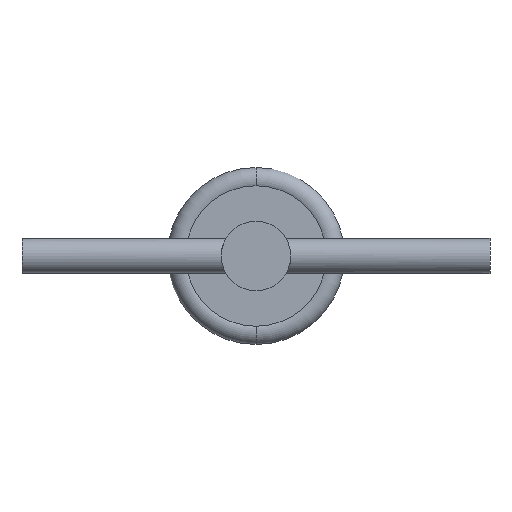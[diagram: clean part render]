
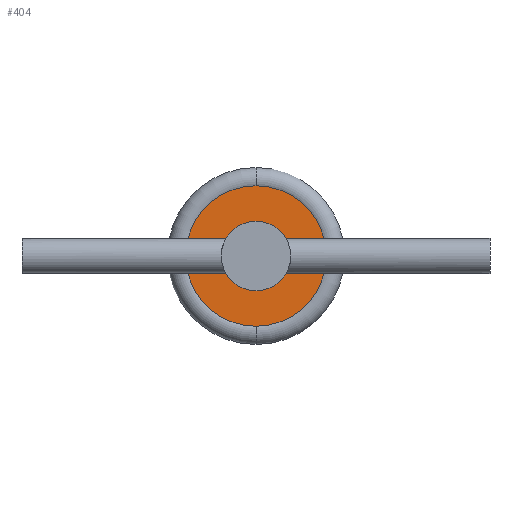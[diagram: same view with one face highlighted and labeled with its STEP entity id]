
A CAD part, left-side view. The second image highlights one B-rep face of the part: STEP entity #404.
In plain terms, the highlighted planar face has unit normal (-1, 0, 0).
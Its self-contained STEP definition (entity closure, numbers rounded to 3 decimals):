
#6 = EDGE_CURVE ( 'NONE', #486, #595, #74, .T. ) ;
#57 = EDGE_CURVE ( 'NONE', #303, #295, #770, .T. ) ;
#69 = DIRECTION ( 'NONE',  ( 0., 0., 1. ) ) ;
#74 = CIRCLE ( 'NONE', #328, 2.968 ) ;
#110 = CARTESIAN_POINT ( 'NONE',  ( 5.799, 0., 0. ) ) ;
#114 = ORIENTED_EDGE ( 'NONE', *, *, #602, .F. ) ;
#118 = DIRECTION ( 'NONE',  ( -1., 0., 0. ) ) ;
#124 = DIRECTION ( 'NONE',  ( 0., 0., 1. ) ) ;
#130 = ORIENTED_EDGE ( 'NONE', *, *, #6, .F. ) ;
#131 = ORIENTED_EDGE ( 'NONE', *, *, #57, .T. ) ;
#133 = AXIS2_PLACEMENT_3D ( 'NONE', #110, #118, #124 ) ;
#142 = DIRECTION ( 'NONE',  ( 0., 0., 1. ) ) ;
#146 = ORIENTED_EDGE ( 'NONE', *, *, #341, .T. ) ;
#156 = AXIS2_PLACEMENT_3D ( 'NONE', #175, #179, #182 ) ;
#175 = CARTESIAN_POINT ( 'NONE',  ( 5.799, 0., 0. ) ) ;
#179 = DIRECTION ( 'NONE',  ( -1., 0., 0. ) ) ;
#182 = DIRECTION ( 'NONE',  ( 0., 0., 1. ) ) ;
#192 = CARTESIAN_POINT ( 'NONE',  ( 5.799, 0., -6. ) ) ;
#225 = PLANE ( 'NONE',  #431 ) ;
#260 = CARTESIAN_POINT ( 'NONE',  ( 5.799, 2.968, 0. ) ) ;
#295 = VERTEX_POINT ( 'NONE', #707 ) ;
#303 = VERTEX_POINT ( 'NONE', #192 ) ;
#328 = AXIS2_PLACEMENT_3D ( 'NONE', #580, #597, #69 ) ;
#341 = EDGE_CURVE ( 'NONE', #295, #303, #554, .T. ) ;
#369 = AXIS2_PLACEMENT_3D ( 'NONE', #545, #473, #142 ) ;
#382 = FACE_OUTER_BOUND ( 'NONE', #815, .T. ) ;
#404 = ADVANCED_FACE ( 'NONE', ( #806, #382 ), #225, .F. ) ;
#427 = CARTESIAN_POINT ( 'NONE',  ( 5.799, 0., 2.968 ) ) ;
#431 = AXIS2_PLACEMENT_3D ( 'NONE', #260, #632, #613 ) ;
#435 = CIRCLE ( 'NONE', #156, 2.968 ) ;
#473 = DIRECTION ( 'NONE',  ( -1., 0., 0. ) ) ;
#486 = VERTEX_POINT ( 'NONE', #793 ) ;
#545 = CARTESIAN_POINT ( 'NONE',  ( 5.799, 0., 0. ) ) ;
#554 = CIRCLE ( 'NONE', #133, 6. ) ;
#580 = CARTESIAN_POINT ( 'NONE',  ( 5.799, 0., 0. ) ) ;
#595 = VERTEX_POINT ( 'NONE', #427 ) ;
#597 = DIRECTION ( 'NONE',  ( -1., 0., 0. ) ) ;
#602 = EDGE_CURVE ( 'NONE', #595, #486, #435, .T. ) ;
#613 = DIRECTION ( 'NONE',  ( 0., 0., -1. ) ) ;
#632 = DIRECTION ( 'NONE',  ( 1., 0., 0. ) ) ;
#707 = CARTESIAN_POINT ( 'NONE',  ( 5.799, 0., 6. ) ) ;
#769 = EDGE_LOOP ( 'NONE', ( #114, #130 ) ) ;
#770 = CIRCLE ( 'NONE', #369, 6. ) ;
#793 = CARTESIAN_POINT ( 'NONE',  ( 5.799, 0., -2.968 ) ) ;
#806 = FACE_BOUND ( 'NONE', #769, .T. ) ;
#815 = EDGE_LOOP ( 'NONE', ( #146, #131 ) ) ;
